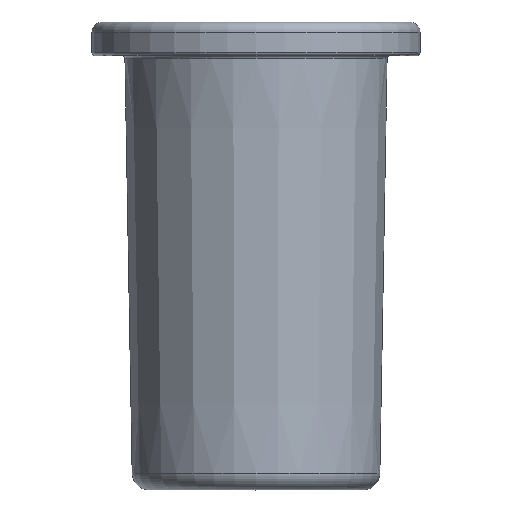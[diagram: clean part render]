
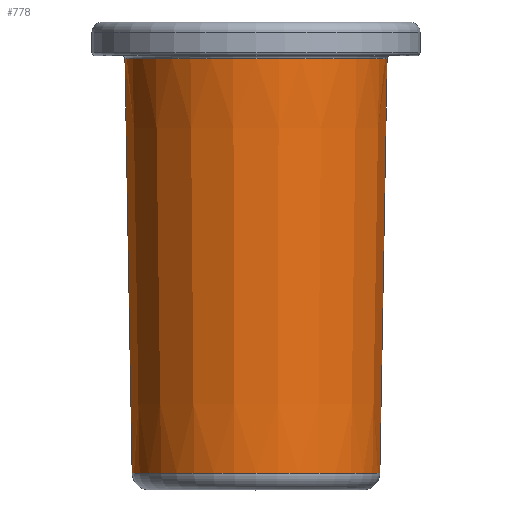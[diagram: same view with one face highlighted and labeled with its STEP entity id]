
A CAD part, top view. The second image highlights one B-rep face of the part: STEP entity #778.
In plain terms, the highlighted conical face has half-angle 1 degrees and reference radius 39.249 mm.
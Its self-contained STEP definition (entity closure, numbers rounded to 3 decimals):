
#9 = CIRCLE ( 'NONE', #190, 39.249 ) ;
#14 = CARTESIAN_POINT ( 'NONE',  ( -37.083, 4.913, 0. ) ) ;
#18 = DIRECTION ( 'NONE',  ( -1., 0., 0. ) ) ;
#21 = VERTEX_POINT ( 'NONE', #163 ) ;
#37 = FACE_OUTER_BOUND ( 'NONE', #71, .T. ) ;
#66 = LINE ( 'NONE', #153, #426 ) ;
#71 = EDGE_LOOP ( 'NONE', ( #721, #771, #358, #550 ) ) ;
#87 = DIRECTION ( 'NONE',  ( 0., 1., 0. ) ) ;
#110 = AXIS2_PLACEMENT_3D ( 'NONE', #511, #630, #765 ) ;
#112 = CARTESIAN_POINT ( 'NONE',  ( 39.249, 129.017, 0. ) ) ;
#116 = VECTOR ( 'NONE', #441, 1000. ) ;
#135 = AXIS2_PLACEMENT_3D ( 'NONE', #268, #87, #537 ) ;
#153 = CARTESIAN_POINT ( 'NONE',  ( -39.249, 129.017, 0. ) ) ;
#163 = CARTESIAN_POINT ( 'NONE',  ( 37.083, 4.913, 0. ) ) ;
#190 = AXIS2_PLACEMENT_3D ( 'NONE', #787, #342, #18 ) ;
#214 = DIRECTION ( 'NONE',  ( -0.017, 1., 0. ) ) ;
#268 = CARTESIAN_POINT ( 'NONE',  ( 0., 129.017, 0. ) ) ;
#270 = VERTEX_POINT ( 'NONE', #710 ) ;
#272 = VERTEX_POINT ( 'NONE', #14 ) ;
#291 = LINE ( 'NONE', #709, #116 ) ;
#330 = EDGE_CURVE ( 'NONE', #270, #578, #9, .T. ) ;
#342 = DIRECTION ( 'NONE',  ( 0., 1., 0. ) ) ;
#358 = ORIENTED_EDGE ( 'NONE', *, *, #330, .F. ) ;
#426 = VECTOR ( 'NONE', #214, 1000. ) ;
#441 = DIRECTION ( 'NONE',  ( 0.017, 1., 0. ) ) ;
#479 = EDGE_CURVE ( 'NONE', #272, #270, #66, .T. ) ;
#511 = CARTESIAN_POINT ( 'NONE',  ( 0., 4.913, 0. ) ) ;
#537 = DIRECTION ( 'NONE',  ( -1., 0., 0. ) ) ;
#550 = ORIENTED_EDGE ( 'NONE', *, *, #479, .F. ) ;
#559 = EDGE_CURVE ( 'NONE', #272, #21, #720, .T. ) ;
#578 = VERTEX_POINT ( 'NONE', #112 ) ;
#606 = EDGE_CURVE ( 'NONE', #21, #578, #291, .T. ) ;
#630 = DIRECTION ( 'NONE',  ( 0., 1., 0. ) ) ;
#709 = CARTESIAN_POINT ( 'NONE',  ( 39.249, 129.017, 0. ) ) ;
#710 = CARTESIAN_POINT ( 'NONE',  ( -39.249, 129.017, 0. ) ) ;
#720 = CIRCLE ( 'NONE', #110, 37.083 ) ;
#721 = ORIENTED_EDGE ( 'NONE', *, *, #559, .T. ) ;
#765 = DIRECTION ( 'NONE',  ( -1., 0., 0. ) ) ;
#771 = ORIENTED_EDGE ( 'NONE', *, *, #606, .T. ) ;
#778 = ADVANCED_FACE ( 'NONE', ( #37 ), #792, .T. ) ;
#787 = CARTESIAN_POINT ( 'NONE',  ( 0., 129.017, 0. ) ) ;
#792 = CONICAL_SURFACE ( 'NONE', #135, 39.249, 0.017 ) ;
